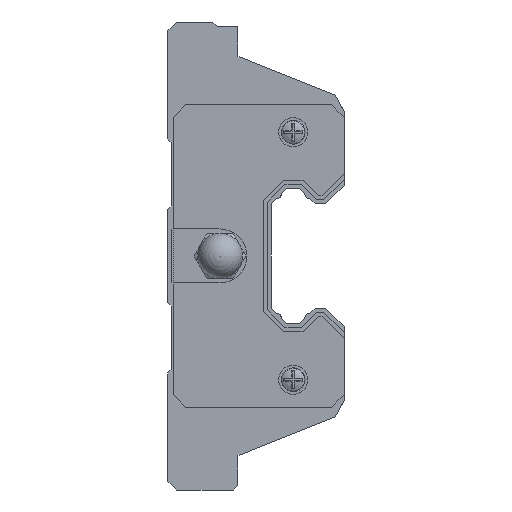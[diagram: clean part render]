
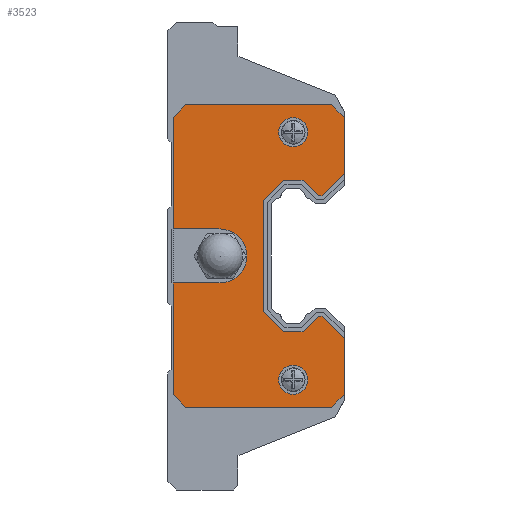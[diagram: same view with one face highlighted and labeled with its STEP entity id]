
A CAD part, left-side view. The second image highlights one B-rep face of the part: STEP entity #3523.
In plain terms, the highlighted planar face has unit normal (-1, 0, 0) as drawn and (1, 0, 0) by its records, which use the part's own axes.
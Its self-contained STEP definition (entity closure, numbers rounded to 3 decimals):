
#3505 = VERTEX_POINT('',#3506);
#3506 = CARTESIAN_POINT('',(2.5,10.07,15.365));
#3511 = EDGE_CURVE('',#3505,#3505,#3512,.T.);
#3512 = CIRCLE('',#3513,1.615);
#3513 = AXIS2_PLACEMENT_3D('',#3514,#3515,#3516);
#3514 = CARTESIAN_POINT('',(2.5,10.07,13.75));
#3515 = DIRECTION('',(-1.,0.,0.));
#3516 = DIRECTION('',(0.,0.,1.));
#3523 = ADVANCED_FACE('',(#3524,#3719,#3722),#3733,.T.);
#3524 = FACE_BOUND('',#3525,.T.);
#3525 = EDGE_LOOP('',(#3526,#3536,#3544,#3552,#3560,#3568,#3576,#3584,
    #3592,#3600,#3608,#3616,#3624,#3632,#3640,#3648,#3656,#3664,#3673,
    #3681,#3689,#3697,#3705,#3713));
#3526 = ORIENTED_EDGE('',*,*,#3527,.F.);
#3527 = EDGE_CURVE('',#3528,#3530,#3532,.T.);
#3528 = VERTEX_POINT('',#3529);
#3529 = CARTESIAN_POINT('',(2.5,6.849,6.699));
#3530 = VERTEX_POINT('',#3531);
#3531 = CARTESIAN_POINT('',(2.5,4.4,9.148));
#3532 = LINE('',#3533,#3534);
#3533 = CARTESIAN_POINT('',(2.5,6.849,6.699));
#3534 = VECTOR('',#3535,1.);
#3535 = DIRECTION('',(0.,-0.707,0.707));
#3536 = ORIENTED_EDGE('',*,*,#3537,.F.);
#3537 = EDGE_CURVE('',#3538,#3528,#3540,.T.);
#3538 = VERTEX_POINT('',#3539);
#3539 = CARTESIAN_POINT('',(2.5,7.267,6.699));
#3540 = LINE('',#3541,#3542);
#3541 = CARTESIAN_POINT('',(2.5,7.267,6.699));
#3542 = VECTOR('',#3543,1.);
#3543 = DIRECTION('',(0.,-1.,0.));
#3544 = ORIENTED_EDGE('',*,*,#3545,.F.);
#3545 = EDGE_CURVE('',#3546,#3538,#3548,.T.);
#3546 = VERTEX_POINT('',#3547);
#3547 = CARTESIAN_POINT('',(2.5,8.968,8.4));
#3548 = LINE('',#3549,#3550);
#3549 = CARTESIAN_POINT('',(2.5,8.968,8.4));
#3550 = VECTOR('',#3551,1.);
#3551 = DIRECTION('',(0.,-0.707,-0.707));
#3552 = ORIENTED_EDGE('',*,*,#3553,.F.);
#3553 = EDGE_CURVE('',#3554,#3546,#3556,.T.);
#3554 = VERTEX_POINT('',#3555);
#3555 = CARTESIAN_POINT('',(2.5,11.172,8.4));
#3556 = LINE('',#3557,#3558);
#3557 = CARTESIAN_POINT('',(2.5,11.172,8.4));
#3558 = VECTOR('',#3559,1.);
#3559 = DIRECTION('',(0.,-1.,0.));
#3560 = ORIENTED_EDGE('',*,*,#3561,.F.);
#3561 = EDGE_CURVE('',#3562,#3554,#3564,.T.);
#3562 = VERTEX_POINT('',#3563);
#3563 = CARTESIAN_POINT('',(2.5,13.4,6.172));
#3564 = LINE('',#3565,#3566);
#3565 = CARTESIAN_POINT('',(2.5,13.4,6.172));
#3566 = VECTOR('',#3567,1.);
#3567 = DIRECTION('',(0.,-0.707,0.707));
#3568 = ORIENTED_EDGE('',*,*,#3569,.F.);
#3569 = EDGE_CURVE('',#3570,#3562,#3572,.T.);
#3570 = VERTEX_POINT('',#3571);
#3571 = CARTESIAN_POINT('',(2.5,13.4,-6.172));
#3572 = LINE('',#3573,#3574);
#3573 = CARTESIAN_POINT('',(2.5,13.4,-6.172));
#3574 = VECTOR('',#3575,1.);
#3575 = DIRECTION('',(0.,0.,1.));
#3576 = ORIENTED_EDGE('',*,*,#3577,.F.);
#3577 = EDGE_CURVE('',#3578,#3570,#3580,.T.);
#3578 = VERTEX_POINT('',#3579);
#3579 = CARTESIAN_POINT('',(2.5,11.172,-8.4));
#3580 = LINE('',#3581,#3582);
#3581 = CARTESIAN_POINT('',(2.5,11.172,-8.4));
#3582 = VECTOR('',#3583,1.);
#3583 = DIRECTION('',(0.,0.707,0.707));
#3584 = ORIENTED_EDGE('',*,*,#3585,.F.);
#3585 = EDGE_CURVE('',#3586,#3578,#3588,.T.);
#3586 = VERTEX_POINT('',#3587);
#3587 = CARTESIAN_POINT('',(2.5,8.968,-8.4));
#3588 = LINE('',#3589,#3590);
#3589 = CARTESIAN_POINT('',(2.5,8.968,-8.4));
#3590 = VECTOR('',#3591,1.);
#3591 = DIRECTION('',(0.,1.,0.));
#3592 = ORIENTED_EDGE('',*,*,#3593,.F.);
#3593 = EDGE_CURVE('',#3594,#3586,#3596,.T.);
#3594 = VERTEX_POINT('',#3595);
#3595 = CARTESIAN_POINT('',(2.5,7.267,-6.699));
#3596 = LINE('',#3597,#3598);
#3597 = CARTESIAN_POINT('',(2.5,7.267,-6.699));
#3598 = VECTOR('',#3599,1.);
#3599 = DIRECTION('',(0.,0.707,-0.707));
#3600 = ORIENTED_EDGE('',*,*,#3601,.F.);
#3601 = EDGE_CURVE('',#3602,#3594,#3604,.T.);
#3602 = VERTEX_POINT('',#3603);
#3603 = CARTESIAN_POINT('',(2.5,6.849,-6.699));
#3604 = LINE('',#3605,#3606);
#3605 = CARTESIAN_POINT('',(2.5,6.849,-6.699));
#3606 = VECTOR('',#3607,1.);
#3607 = DIRECTION('',(0.,1.,0.));
#3608 = ORIENTED_EDGE('',*,*,#3609,.F.);
#3609 = EDGE_CURVE('',#3610,#3602,#3612,.T.);
#3610 = VERTEX_POINT('',#3611);
#3611 = CARTESIAN_POINT('',(2.5,4.4,-9.148));
#3612 = LINE('',#3613,#3614);
#3613 = CARTESIAN_POINT('',(2.5,4.4,-9.148));
#3614 = VECTOR('',#3615,1.);
#3615 = DIRECTION('',(0.,0.707,0.707));
#3616 = ORIENTED_EDGE('',*,*,#3617,.T.);
#3617 = EDGE_CURVE('',#3610,#3618,#3620,.T.);
#3618 = VERTEX_POINT('',#3619);
#3619 = CARTESIAN_POINT('',(2.5,4.4,-15.412));
#3620 = LINE('',#3621,#3622);
#3621 = CARTESIAN_POINT('',(2.5,4.4,15.412));
#3622 = VECTOR('',#3623,1.);
#3623 = DIRECTION('',(0.,0.,-1.));
#3624 = ORIENTED_EDGE('',*,*,#3625,.T.);
#3625 = EDGE_CURVE('',#3618,#3626,#3628,.T.);
#3626 = VERTEX_POINT('',#3627);
#3627 = CARTESIAN_POINT('',(2.5,5.788,-16.8));
#3628 = LINE('',#3629,#3630);
#3629 = CARTESIAN_POINT('',(2.5,4.4,-15.412));
#3630 = VECTOR('',#3631,1.);
#3631 = DIRECTION('',(0.,0.707,-0.707));
#3632 = ORIENTED_EDGE('',*,*,#3633,.T.);
#3633 = EDGE_CURVE('',#3626,#3634,#3636,.T.);
#3634 = VERTEX_POINT('',#3635);
#3635 = CARTESIAN_POINT('',(2.5,22.012,-16.8));
#3636 = LINE('',#3637,#3638);
#3637 = CARTESIAN_POINT('',(2.5,5.788,-16.8));
#3638 = VECTOR('',#3639,1.);
#3639 = DIRECTION('',(0.,1.,0.));
#3640 = ORIENTED_EDGE('',*,*,#3641,.T.);
#3641 = EDGE_CURVE('',#3634,#3642,#3644,.T.);
#3642 = VERTEX_POINT('',#3643);
#3643 = CARTESIAN_POINT('',(2.5,23.4,-15.412));
#3644 = LINE('',#3645,#3646);
#3645 = CARTESIAN_POINT('',(2.5,22.012,-16.8));
#3646 = VECTOR('',#3647,1.);
#3647 = DIRECTION('',(0.,0.707,0.707));
#3648 = ORIENTED_EDGE('',*,*,#3649,.T.);
#3649 = EDGE_CURVE('',#3642,#3650,#3652,.T.);
#3650 = VERTEX_POINT('',#3651);
#3651 = CARTESIAN_POINT('',(2.5,23.4,-3.));
#3652 = LINE('',#3653,#3654);
#3653 = CARTESIAN_POINT('',(2.5,23.4,-15.412));
#3654 = VECTOR('',#3655,1.);
#3655 = DIRECTION('',(0.,0.,1.));
#3656 = ORIENTED_EDGE('',*,*,#3657,.F.);
#3657 = EDGE_CURVE('',#3658,#3650,#3660,.T.);
#3658 = VERTEX_POINT('',#3659);
#3659 = CARTESIAN_POINT('',(2.5,18.2,-3.));
#3660 = LINE('',#3661,#3662);
#3661 = CARTESIAN_POINT('',(2.5,18.2,-3.));
#3662 = VECTOR('',#3663,1.);
#3663 = DIRECTION('',(0.,1.,0.));
#3664 = ORIENTED_EDGE('',*,*,#3665,.F.);
#3665 = EDGE_CURVE('',#3666,#3658,#3668,.T.);
#3666 = VERTEX_POINT('',#3667);
#3667 = CARTESIAN_POINT('',(2.5,18.2,3.));
#3668 = CIRCLE('',#3669,3.);
#3669 = AXIS2_PLACEMENT_3D('',#3670,#3671,#3672);
#3670 = CARTESIAN_POINT('',(2.5,18.2,0.));
#3671 = DIRECTION('',(1.,0.,0.));
#3672 = DIRECTION('',(0.,0.,-1.));
#3673 = ORIENTED_EDGE('',*,*,#3674,.F.);
#3674 = EDGE_CURVE('',#3675,#3666,#3677,.T.);
#3675 = VERTEX_POINT('',#3676);
#3676 = CARTESIAN_POINT('',(2.5,23.4,3.));
#3677 = LINE('',#3678,#3679);
#3678 = CARTESIAN_POINT('',(2.5,23.4,3.));
#3679 = VECTOR('',#3680,1.);
#3680 = DIRECTION('',(0.,-1.,0.));
#3681 = ORIENTED_EDGE('',*,*,#3682,.T.);
#3682 = EDGE_CURVE('',#3675,#3683,#3685,.T.);
#3683 = VERTEX_POINT('',#3684);
#3684 = CARTESIAN_POINT('',(2.5,23.4,15.412));
#3685 = LINE('',#3686,#3687);
#3686 = CARTESIAN_POINT('',(2.5,23.4,-15.412));
#3687 = VECTOR('',#3688,1.);
#3688 = DIRECTION('',(0.,0.,1.));
#3689 = ORIENTED_EDGE('',*,*,#3690,.T.);
#3690 = EDGE_CURVE('',#3683,#3691,#3693,.T.);
#3691 = VERTEX_POINT('',#3692);
#3692 = CARTESIAN_POINT('',(2.5,22.012,16.8));
#3693 = LINE('',#3694,#3695);
#3694 = CARTESIAN_POINT('',(2.5,23.4,15.412));
#3695 = VECTOR('',#3696,1.);
#3696 = DIRECTION('',(0.,-0.707,0.707));
#3697 = ORIENTED_EDGE('',*,*,#3698,.T.);
#3698 = EDGE_CURVE('',#3691,#3699,#3701,.T.);
#3699 = VERTEX_POINT('',#3700);
#3700 = CARTESIAN_POINT('',(2.5,5.788,16.8));
#3701 = LINE('',#3702,#3703);
#3702 = CARTESIAN_POINT('',(2.5,22.012,16.8));
#3703 = VECTOR('',#3704,1.);
#3704 = DIRECTION('',(0.,-1.,0.));
#3705 = ORIENTED_EDGE('',*,*,#3706,.T.);
#3706 = EDGE_CURVE('',#3699,#3707,#3709,.T.);
#3707 = VERTEX_POINT('',#3708);
#3708 = CARTESIAN_POINT('',(2.5,4.4,15.412));
#3709 = LINE('',#3710,#3711);
#3710 = CARTESIAN_POINT('',(2.5,5.788,16.8));
#3711 = VECTOR('',#3712,1.);
#3712 = DIRECTION('',(0.,-0.707,-0.707));
#3713 = ORIENTED_EDGE('',*,*,#3714,.T.);
#3714 = EDGE_CURVE('',#3707,#3530,#3715,.T.);
#3715 = LINE('',#3716,#3717);
#3716 = CARTESIAN_POINT('',(2.5,4.4,15.412));
#3717 = VECTOR('',#3718,1.);
#3718 = DIRECTION('',(0.,0.,-1.));
#3719 = FACE_BOUND('',#3720,.T.);
#3720 = EDGE_LOOP('',(#3721));
#3721 = ORIENTED_EDGE('',*,*,#3511,.T.);
#3722 = FACE_BOUND('',#3723,.T.);
#3723 = EDGE_LOOP('',(#3724));
#3724 = ORIENTED_EDGE('',*,*,#3725,.T.);
#3725 = EDGE_CURVE('',#3726,#3726,#3728,.T.);
#3726 = VERTEX_POINT('',#3727);
#3727 = CARTESIAN_POINT('',(2.5,10.07,-12.135));
#3728 = CIRCLE('',#3729,1.615);
#3729 = AXIS2_PLACEMENT_3D('',#3730,#3731,#3732);
#3730 = CARTESIAN_POINT('',(2.5,10.07,-13.75));
#3731 = DIRECTION('',(-1.,0.,0.));
#3732 = DIRECTION('',(0.,0.,1.));
#3733 = PLANE('',#3734);
#3734 = AXIS2_PLACEMENT_3D('',#3735,#3736,#3737);
#3735 = CARTESIAN_POINT('',(2.5,0.,0.));
#3736 = DIRECTION('',(1.,0.,0.));
#3737 = DIRECTION('',(0.,0.,1.));
